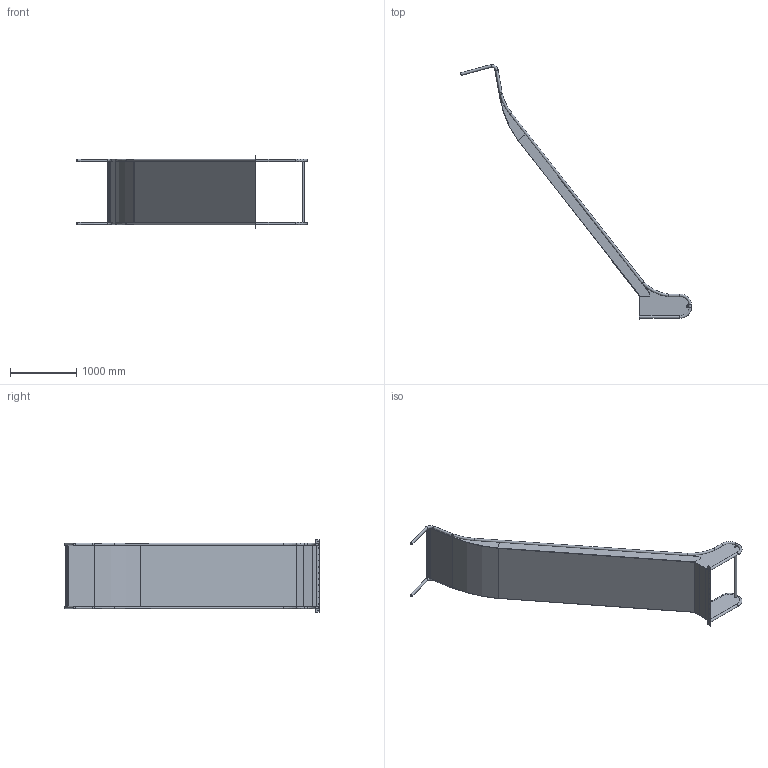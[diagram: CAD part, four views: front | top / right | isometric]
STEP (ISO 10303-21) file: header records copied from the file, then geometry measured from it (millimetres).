
FILE_DESCRIPTION(/* description */ (''),/* implementation_level */ '2;1');
FILE_NAME(/* name */ 'F:\_Inventor\- Tegningsmateriale - kunder\PlayNsafe\PlayNsafe Rutchebaner\Ny mappe\120-2400-1000.stp',/* time_stamp */ '2026-09-08T14:35:24+02:00',/* author */ ('jm'),/* organization */ (''),/* preprocessor_version */ 'ST-DEVELOPER v18.1',/* originating_system */ 'Autodesk Inventor 2022',/* authorisation */ '');
FILE_SCHEMA (('AUTOMOTIVE_DESIGN { 1 0 10303 214 3 1 1 }'));
Length unit declared in the file: millimetre
Products named in the file (11): 120-2400-1000; 120-2400-1000 forlængerplade til lang siddeområ
de; 120-2400-1000 indløb; 120-2400-1000 rør; 120-2400-1000 fortryderstang; 120-2400-1000 monteringsflange; 120-2400-1000 øre; 120-1000-1000 udløb; 120-2400-1000 bue; 120-2400-1000 udløb; Lb2200 venstre
Assembly tree (13 placements, depth 3):
  120-2400-1000
    120-2400-1000 forlængerplade til lang siddeområ
de
    120-2400-1000 indløb
    120-2400-1000 øre  x2
    120-2400-1000 rør  x2
    120-2400-1000 fortryderstang
    120-2400-1000 monteringsflange
    120-1000-1000 udløb
      120-2400-1000 bue
      120-2400-1000 udløb
      Lb2200 venstre  x2
Bounding box: 3483.9 x 3846.31 x 1091.5 mm (x, y, z)
Volume: 26275608.2 mm3; surface area: 13353098.6 mm2
Topology: 12 solids, 12 shells, 285 faces, 689 edges, 432 vertices
Faces by surface type: plane 147, cylinder 111, torus 12, cone 10, bspline 5
Full cylindrical faces by diameter (mm): 2 x2, 6.5 x10, 11 x1, 13 x1, 34 x1, 38 x21
Entity records: 8269 total; most frequent: CARTESIAN_POINT 2210, DIRECTION 1240, ORIENTED_EDGE 1140, EDGE_CURVE 570, AXIS2_PLACEMENT_3D 442, LINE 356, VECTOR 356, VERTEX_POINT 352
